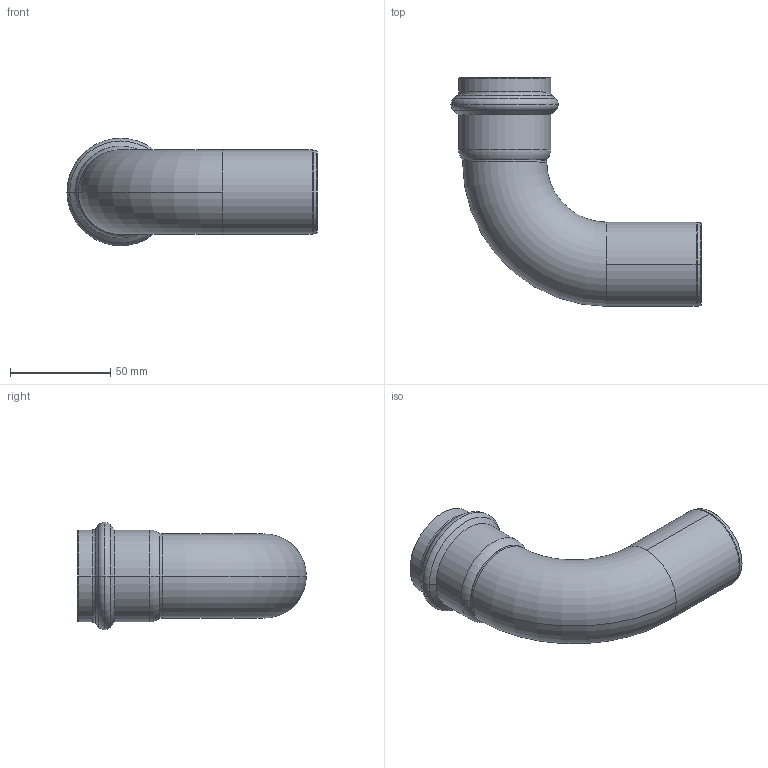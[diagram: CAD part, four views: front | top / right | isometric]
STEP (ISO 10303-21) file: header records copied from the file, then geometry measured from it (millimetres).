
FILE_DESCRIPTION(('CoCreate Modeling STEP Export'),'2;1');
FILE_NAME('8001VW42.stp','2013-01-29T13:59:51',(''),(''),'CoCreate Modeling STEP processor for AP214 (Solid Model)','CoCreate Modeling 17.00A 17-Jun-2010 (C) Parametric Technology GmbH','');
FILE_SCHEMA(('AUTOMOTIVE_DESIGN { 1 0 10303 214 1 1 1 1 }'));
Length unit declared in the file: millimetre
Products named in the file (1): 8001VW42
Bounding box: 124.81 x 114.07 x 53.61 mm (x, y, z)
Volume: 41500.3 mm3; surface area: 45344.9 mm2
Topology: 1 solids, 1 shells, 62 faces, 138 edges, 80 vertices
Faces by surface type: cone 20, torus 20, cylinder 18, plane 4
Entity records: 1385 total; most frequent: ORIENTED_EDGE 276, DIRECTION 214, CARTESIAN_POINT 206, EDGE_CURVE 138, AXIS2_PLACEMENT_3D 88, VERTEX_POINT 80, EDGE_LOOP 66, FACE_OUTER_BOUND 62
